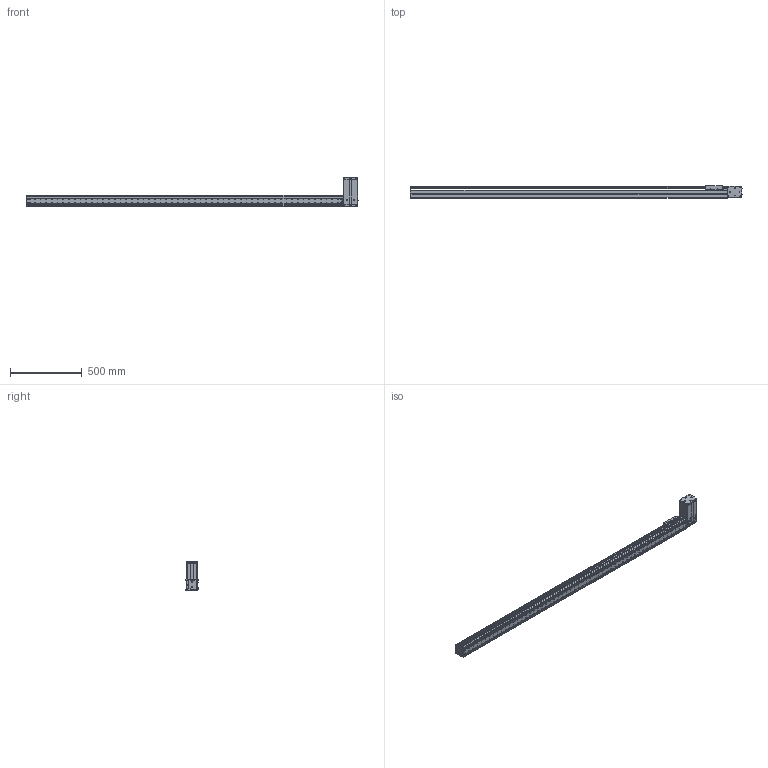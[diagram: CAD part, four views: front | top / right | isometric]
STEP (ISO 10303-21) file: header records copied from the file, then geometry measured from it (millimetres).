
FILE_DESCRIPTION((''),'2;1');
FILE_NAME('BE10_-BR-M_N-L0_IGS_PRT','2017-06-18T',(' '),(''),'PRO/ENGINEER BY PARAMETRIC TECHNOLOGY CORPORATION, 2015030','PRO/ENGINEER BY PARAMETRIC TECHNOLOGY CORPORATION, 2015030','');
FILE_SCHEMA(('CONFIG_CONTROL_DESIGN'));
Products named in the file (1): BE10_-BR-M_N-L0_IGS_PRT
Bounding box: 2320.8 x 85 x 200.22 mm (x, y, z)
Volume: 2999471 mm3; surface area: 2116844.6 mm2
Topology: 5 solids, 189 shells, 2420 faces, 6647 edges, 4443 vertices
Faces by surface type: cylinder 1176, plane 1081, cone 107, sphere 28, torus 25, bspline 3
Entity records: 79586 total; most frequent: CARTESIAN_POINT 16503, DIRECTION 13462, ORIENTED_EDGE 12426, EDGE_CURVE 6575, AXIS2_PLACEMENT_3D 4971, VERTEX_POINT 4438, VECTOR 3520, LINE 3520
